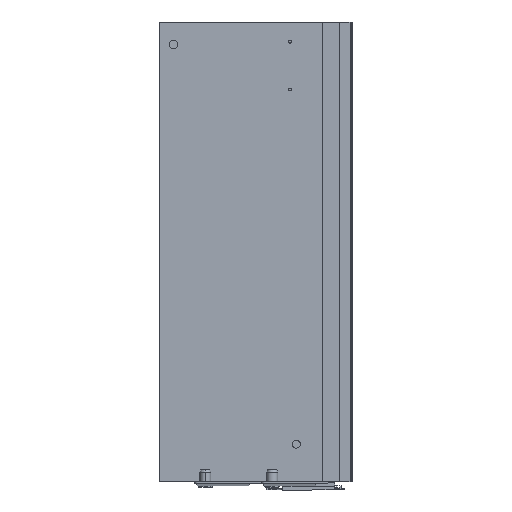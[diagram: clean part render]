
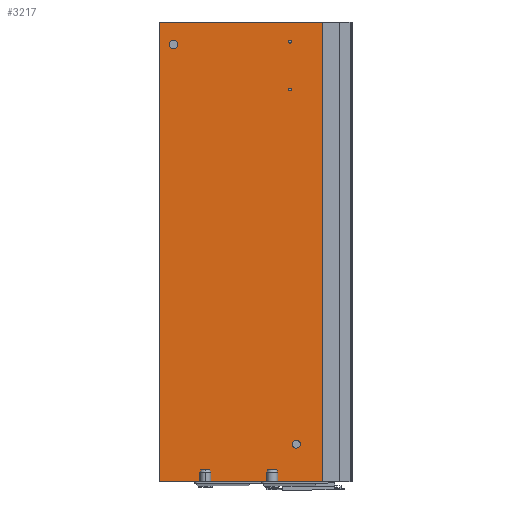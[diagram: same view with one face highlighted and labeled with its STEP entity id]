
A CAD part, left-side view. The second image highlights one B-rep face of the part: STEP entity #3217.
In plain terms, the highlighted planar face has unit normal (-1, 0, 0).
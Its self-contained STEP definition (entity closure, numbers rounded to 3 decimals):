
#22 = AXIS2_PLACEMENT_3D ( 'NONE', #712, #3007, #1028 ) ;
#58 = CARTESIAN_POINT ( 'NONE',  ( -10.5, 28.9, -404. ) ) ;
#61 = CIRCLE ( 'NONE', #3963, 1.339 ) ;
#96 = CARTESIAN_POINT ( 'NONE',  ( -10.5, 30.85, -18.85 ) ) ;
#137 = EDGE_CURVE ( 'NONE', #458, #1570, #869, .T. ) ;
#144 = VERTEX_POINT ( 'NONE', #3542 ) ;
#173 = DIRECTION ( 'NONE',  ( 0., 0., -1. ) ) ;
#228 = CARTESIAN_POINT ( 'NONE',  ( -10.5, 156., -440. ) ) ;
#272 = CIRCLE ( 'NONE', #2250, 3.9 ) ;
#289 = CARTESIAN_POINT ( 'NONE',  ( -10.5, 25., -404. ) ) ;
#295 = DIRECTION ( 'NONE',  ( 0., 1., 0. ) ) ;
#323 = VECTOR ( 'NONE', #1694, 1000. ) ;
#328 = VECTOR ( 'NONE', #3499, 1000. ) ;
#408 = CARTESIAN_POINT ( 'NONE',  ( -10.5, 142.5, -21.5 ) ) ;
#414 = AXIS2_PLACEMENT_3D ( 'NONE', #96, #2379, #429 ) ;
#429 = DIRECTION ( 'NONE',  ( 0., 1., 0. ) ) ;
#457 = CARTESIAN_POINT ( 'NONE',  ( -10.5, 58., -440. ) ) ;
#458 = VERTEX_POINT ( 'NONE', #457 ) ;
#471 = AXIS2_PLACEMENT_3D ( 'NONE', #408, #2699, #726 ) ;
#502 = EDGE_CURVE ( 'NONE', #2573, #144, #3669, .T. ) ;
#543 = CARTESIAN_POINT ( 'NONE',  ( -10.5, 155.9, -440. ) ) ;
#555 = DIRECTION ( 'NONE',  ( 1., 0., 0. ) ) ;
#598 = CARTESIAN_POINT ( 'NONE',  ( -10.5, 156., 0. ) ) ;
#600 = CARTESIAN_POINT ( 'NONE',  ( -10.5, 32.189, -64.56 ) ) ;
#636 = CARTESIAN_POINT ( 'NONE',  ( -10.5, 155.9, -440. ) ) ;
#643 = EDGE_CURVE ( 'NONE', #1147, #2720, #61, .T. ) ;
#665 = FACE_OUTER_BOUND ( 'NONE', #769, .T. ) ;
#680 = ORIENTED_EDGE ( 'NONE', *, *, #2360, .T. ) ;
#689 = EDGE_CURVE ( 'NONE', #2892, #2343, #272, .T. ) ;
#712 = CARTESIAN_POINT ( 'NONE',  ( -10.5, 30.85, -18.85 ) ) ;
#726 = DIRECTION ( 'NONE',  ( 0., 1., 0. ) ) ;
#760 = VECTOR ( 'NONE', #1278, 1000. ) ;
#769 = EDGE_LOOP ( 'NONE', ( #4126, #2546, #1055, #2499, #1254, #1047, #972 ) ) ;
#776 = EDGE_CURVE ( 'NONE', #1599, #1979, #2315, .T. ) ;
#828 = LINE ( 'NONE', #598, #3660 ) ;
#831 = EDGE_CURVE ( 'NONE', #2343, #2892, #2624, .T. ) ;
#851 = EDGE_CURVE ( 'NONE', #2720, #1147, #2830, .T. ) ;
#862 = DIRECTION ( 'NONE',  ( 0., 1., 0. ) ) ;
#869 = LINE ( 'NONE', #3225, #966 ) ;
#910 = DIRECTION ( 'NONE',  ( 0., 0., -1. ) ) ;
#938 = DIRECTION ( 'NONE',  ( 0., 1., 0. ) ) ;
#966 = VECTOR ( 'NONE', #938, 1000. ) ;
#972 = ORIENTED_EDGE ( 'NONE', *, *, #502, .F. ) ;
#1028 = DIRECTION ( 'NONE',  ( 0., 1., 0. ) ) ;
#1047 = ORIENTED_EDGE ( 'NONE', *, *, #4180, .F. ) ;
#1055 = ORIENTED_EDGE ( 'NONE', *, *, #2199, .F. ) ;
#1072 = CARTESIAN_POINT ( 'NONE',  ( -10.5, 29.511, -64.56 ) ) ;
#1120 = VERTEX_POINT ( 'NONE', #3032 ) ;
#1147 = VERTEX_POINT ( 'NONE', #1072 ) ;
#1182 = CARTESIAN_POINT ( 'NONE',  ( -10.5, 156., 0. ) ) ;
#1221 = ORIENTED_EDGE ( 'NONE', *, *, #851, .T. ) ;
#1254 = ORIENTED_EDGE ( 'NONE', *, *, #3737, .F. ) ;
#1257 = AXIS2_PLACEMENT_3D ( 'NONE', #3512, #1557, #3830 ) ;
#1278 = DIRECTION ( 'NONE',  ( 0., 1., 0. ) ) ;
#1402 = AXIS2_PLACEMENT_3D ( 'NONE', #3376, #1420, #3692 ) ;
#1420 = DIRECTION ( 'NONE',  ( 1., 0., 0. ) ) ;
#1425 = EDGE_CURVE ( 'NONE', #2573, #3219, #828, .T. ) ;
#1431 = FACE_BOUND ( 'NONE', #1638, .T. ) ;
#1557 = DIRECTION ( 'NONE',  ( 1., 0., 0. ) ) ;
#1567 = DIRECTION ( 'NONE',  ( 0., 1., 0. ) ) ;
#1570 = VERTEX_POINT ( 'NONE', #3576 ) ;
#1599 = VERTEX_POINT ( 'NONE', #2639 ) ;
#1638 = EDGE_LOOP ( 'NONE', ( #3696, #1221 ) ) ;
#1665 = AXIS2_PLACEMENT_3D ( 'NONE', #4158, #2243, #295 ) ;
#1688 = EDGE_CURVE ( 'NONE', #4171, #3006, #4159, .T. ) ;
#1694 = DIRECTION ( 'NONE',  ( 0., -1., 0. ) ) ;
#1898 = DIRECTION ( 'NONE',  ( 1., 0., 0. ) ) ;
#1979 = VERTEX_POINT ( 'NONE', #3464 ) ;
#2079 = CIRCLE ( 'NONE', #471, 4. ) ;
#2103 = FACE_BOUND ( 'NONE', #4190, .T. ) ;
#2117 = CARTESIAN_POINT ( 'NONE',  ( -10.5, 29.511, -18.85 ) ) ;
#2127 = LINE ( 'NONE', #4055, #3000 ) ;
#2139 = VERTEX_POINT ( 'NONE', #2911 ) ;
#2199 = EDGE_CURVE ( 'NONE', #1570, #1120, #2403, .T. ) ;
#2234 = ORIENTED_EDGE ( 'NONE', *, *, #1688, .T. ) ;
#2243 = DIRECTION ( 'NONE',  ( 1., 0., 0. ) ) ;
#2250 = AXIS2_PLACEMENT_3D ( 'NONE', #289, #1898, #1567 ) ;
#2263 = DIRECTION ( 'NONE',  ( 1., 0., 0. ) ) ;
#2315 = CIRCLE ( 'NONE', #1402, 4. ) ;
#2332 = EDGE_CURVE ( 'NONE', #3006, #4171, #2847, .T. ) ;
#2339 = VECTOR ( 'NONE', #862, 1000. ) ;
#2343 = VERTEX_POINT ( 'NONE', #58 ) ;
#2360 = EDGE_CURVE ( 'NONE', #1979, #1599, #2079, .T. ) ;
#2379 = DIRECTION ( 'NONE',  ( 1., 0., 0. ) ) ;
#2403 = LINE ( 'NONE', #636, #760 ) ;
#2499 = ORIENTED_EDGE ( 'NONE', *, *, #137, .F. ) ;
#2514 = PLANE ( 'NONE',  #3903 ) ;
#2531 = ORIENTED_EDGE ( 'NONE', *, *, #2332, .T. ) ;
#2546 = ORIENTED_EDGE ( 'NONE', *, *, #2613, .F. ) ;
#2573 = VERTEX_POINT ( 'NONE', #3405 ) ;
#2594 = CARTESIAN_POINT ( 'NONE',  ( -10.5, 30.85, -64.56 ) ) ;
#2613 = EDGE_CURVE ( 'NONE', #1120, #3219, #3113, .T. ) ;
#2624 = CIRCLE ( 'NONE', #1257, 3.9 ) ;
#2639 = CARTESIAN_POINT ( 'NONE',  ( -10.5, 142.5, -25.5 ) ) ;
#2647 = ORIENTED_EDGE ( 'NONE', *, *, #776, .T. ) ;
#2699 = DIRECTION ( 'NONE',  ( 1., 0., 0. ) ) ;
#2720 = VERTEX_POINT ( 'NONE', #600 ) ;
#2732 = ORIENTED_EDGE ( 'NONE', *, *, #831, .T. ) ;
#2794 = ORIENTED_EDGE ( 'NONE', *, *, #689, .T. ) ;
#2830 = CIRCLE ( 'NONE', #1665, 1.339 ) ;
#2842 = DIRECTION ( 'NONE',  ( 0., 1., 0. ) ) ;
#2847 = CIRCLE ( 'NONE', #22, 1.339 ) ;
#2851 = EDGE_LOOP ( 'NONE', ( #2732, #2794 ) ) ;
#2892 = VERTEX_POINT ( 'NONE', #3301 ) ;
#2911 = CARTESIAN_POINT ( 'NONE',  ( -10.5, 0., -440. ) ) ;
#3000 = VECTOR ( 'NONE', #173, 1000. ) ;
#3006 = VERTEX_POINT ( 'NONE', #4006 ) ;
#3007 = DIRECTION ( 'NONE',  ( 1., 0., 0. ) ) ;
#3032 = CARTESIAN_POINT ( 'NONE',  ( -10.5, 122., -440. ) ) ;
#3113 = LINE ( 'NONE', #543, #2339 ) ;
#3217 = ADVANCED_FACE ( 'NONE', ( #4010, #1431, #2103, #665, #4109 ), #2514, .F. ) ;
#3219 = VERTEX_POINT ( 'NONE', #228 ) ;
#3225 = CARTESIAN_POINT ( 'NONE',  ( -10.5, 156., -440. ) ) ;
#3301 = CARTESIAN_POINT ( 'NONE',  ( -10.5, 21.1, -404. ) ) ;
#3323 = CARTESIAN_POINT ( 'NONE',  ( -10.5, 156., 0. ) ) ;
#3376 = CARTESIAN_POINT ( 'NONE',  ( -10.5, 142.5, -21.5 ) ) ;
#3405 = CARTESIAN_POINT ( 'NONE',  ( -10.5, 156., 0. ) ) ;
#3464 = CARTESIAN_POINT ( 'NONE',  ( -10.5, 142.5, -17.5 ) ) ;
#3499 = DIRECTION ( 'NONE',  ( 0., 1., 0. ) ) ;
#3512 = CARTESIAN_POINT ( 'NONE',  ( -10.5, 25., -404. ) ) ;
#3542 = CARTESIAN_POINT ( 'NONE',  ( -10.5, 0., 0. ) ) ;
#3576 = CARTESIAN_POINT ( 'NONE',  ( -10.5, 58.8, -440. ) ) ;
#3660 = VECTOR ( 'NONE', #910, 1000. ) ;
#3669 = LINE ( 'NONE', #3323, #323 ) ;
#3692 = DIRECTION ( 'NONE',  ( 0., 1., 0. ) ) ;
#3696 = ORIENTED_EDGE ( 'NONE', *, *, #643, .T. ) ;
#3737 = EDGE_CURVE ( 'NONE', #2139, #458, #3773, .T. ) ;
#3773 = LINE ( 'NONE', #3815, #328 ) ;
#3815 = CARTESIAN_POINT ( 'NONE',  ( -10.5, 155.9, -440. ) ) ;
#3830 = DIRECTION ( 'NONE',  ( 0., 1., 0. ) ) ;
#3903 = AXIS2_PLACEMENT_3D ( 'NONE', #1182, #555, #2842 ) ;
#3963 = AXIS2_PLACEMENT_3D ( 'NONE', #2594, #2263, #4181 ) ;
#4006 = CARTESIAN_POINT ( 'NONE',  ( -10.5, 32.189, -18.85 ) ) ;
#4010 = FACE_BOUND ( 'NONE', #4066, .T. ) ;
#4055 = CARTESIAN_POINT ( 'NONE',  ( -10.5, 0., 0. ) ) ;
#4066 = EDGE_LOOP ( 'NONE', ( #2234, #2531 ) ) ;
#4109 = FACE_BOUND ( 'NONE', #2851, .T. ) ;
#4126 = ORIENTED_EDGE ( 'NONE', *, *, #1425, .T. ) ;
#4158 = CARTESIAN_POINT ( 'NONE',  ( -10.5, 30.85, -64.56 ) ) ;
#4159 = CIRCLE ( 'NONE', #414, 1.339 ) ;
#4171 = VERTEX_POINT ( 'NONE', #2117 ) ;
#4180 = EDGE_CURVE ( 'NONE', #144, #2139, #2127, .T. ) ;
#4181 = DIRECTION ( 'NONE',  ( 0., 1., 0. ) ) ;
#4190 = EDGE_LOOP ( 'NONE', ( #680, #2647 ) ) ;
